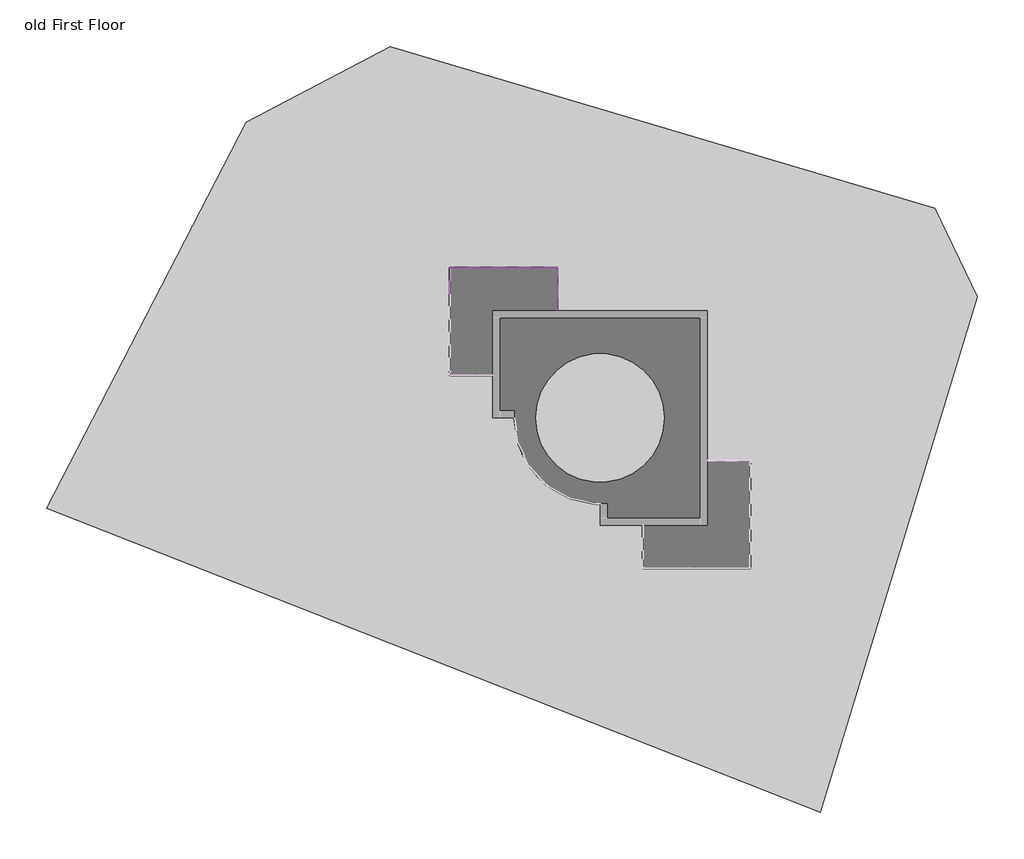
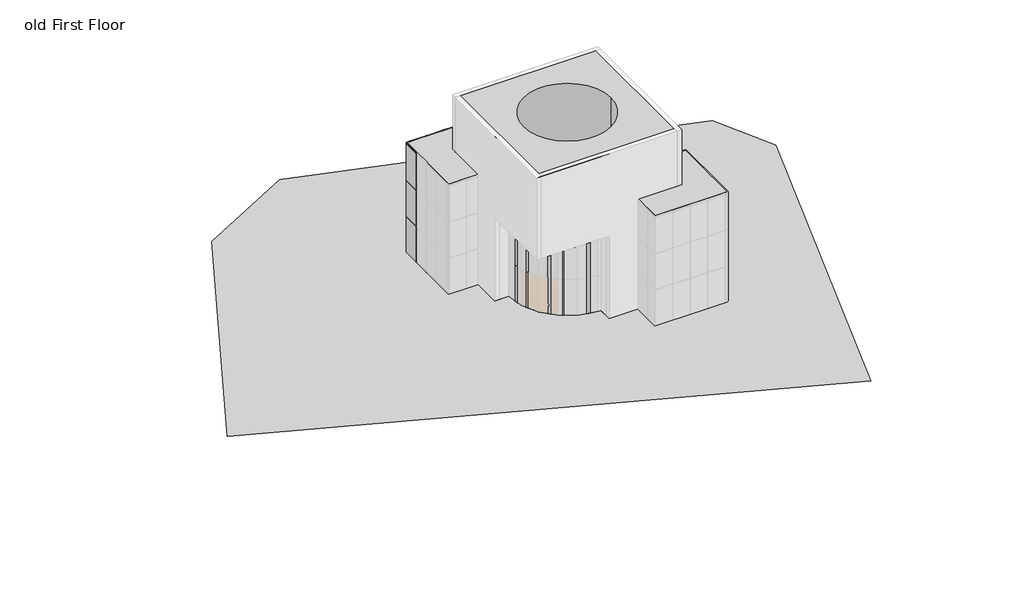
# One storey, part 4 of 4: 72 members, 32 plates, 3 proxies, 2 slabs.
"""IFC4 building model written with IfcOpenShell, lengths in millimetres."""

from ifc_helpers import new_model, si_unit, point, frame, frame_2d, origin, origin_with_axes, place, context, project, spatial, polyline, circle_curve, trimmed, segment, composite_curve, outline, extrude, triangles, transform, mapped, element, save
from ifc_brep_helpers import plane_surface, cylinder_surface, revolved_surface, advanced_brep
from components import member_159572b0, member_653015da, member_2a641000, member_559eaf3f, member_582f46e3, member_ecc72e92, member_f3435ee7, member_a0b1ebc8, member_e916581d, member_8d5cdd9e, member_e2275742, member_baf210a9, system_panel_glazed_055f5726, system_panel_glazed_f85f85f2, system_panel_glazed_14487ba2, system_panel_glazed_56128400, system_panel_glazed_75032e0c, system_panel_glazed_306a2926

model = new_model("IFC4")

# Units and contexts
model_context = context("Model", 3, world=origin())
ifc_project = project(units=[si_unit("LENGTHUNIT", "METRE", prefix="MILLI")], contexts=[model_context])

# Site, building, storey
site = spatial("IfcSite", under=ifc_project)
building = spatial("IfcBuilding", under=site)
storey = spatial("IfcBuildingStorey", under=building, Name="old First Floor", Elevation=0.0)

# Proxies
placement = place(None, origin())
element("IfcBuildingElementProxy", 1, Name="Building Element Proxy", at=placement, inside=storey, context=model_context, shape_type="Tessellation", body=[
    triangles([(-25480.586554, 20710.9637329, 0.0), (-15230.408725, 26088.1052856, 0.0), (23501.8189636, 14577.6613586, 0.0), (26526.4622498, 8276.3221481, 0.0), (15352.0885071, -28355.4599121, 0.0), (-39679.6012573, -6762.8726669, 0.0)], [[1, 5, 2], [5, 1, 6], [4, 3, 2], [4, 2, 5]], closed=False),
])
element("IfcBuildingElementProxy", 2, Name="Central Hall1 : Central Hall", ObjectType="Central Hall1 : Central Hall", at=placement, inside=storey, context=model_context, shape_type="AdvancedBrep", body=[
    advanced_brep(
    [(7308.8955952, 7299.8851347, 0.0), (-7931.1044048, 7299.8851347, 0.0), (-7931.1044048, 7299.8851347, 18288.0), (7308.8955952, 7299.8851347, 18288.0), (-7931.1044048, -320.1148653, 0.0), (-7931.1044048, -320.1148653, 9144.0), (-7931.1044048, -7940.1148653, 9144.0), (-7931.1044048, -7940.1148653, 18288.0), (7308.8955952, -7940.1148653, 0.0), (7308.8955952, -7940.1148653, 18288.0), (-311.1044048, -7940.1148653, 9144.0), (-311.1044048, -7940.1148653, 0.0), (4260.8955952, -320.1148653, 18288.0), (-4883.1044048, -320.1148653, 18288.0), (-311.1044048, -6416.1148653, 0.0), (-6407.1044048, -320.1148653, 0.0), (-4883.1044048, -320.1148653, 0.0), (4260.8955952, -320.1148653, 0.0), (-311.1044048, -6416.1148653, 9144.0), (-6407.1044048, -320.1148653, 9144.0)],
    [
        (0, 1),
        (1, 2),
        (2, 3),
        (3, 0),
        (1, 4),
        (4, 5),
        (5, 6),
        (6, 7),
        (7, 2),
        (8, 9),
        (9, 7),
        (6, 10),
        (10, 11),
        (11, 8),
        (3, 9),
        (8, 0),
        (12, 13, circle_curve(frame((-311.1044048, -320.1148653, 18288.0), z_axis=(0.0, 0.0, -1.0), x_axis=(0.0, -1.0, 0.0)), 4572.0)),
        (13, 12, circle_curve(frame((-311.1044048, -320.1148653, 18288.0), z_axis=(0.0, 0.0, -1.0), x_axis=(0.0, 1.0, 0.0)), 4572.0)),
        (11, 14),
        (14, 15, circle_curve(frame((-311.1044048, -320.1148653, 0.0), z_axis=(0.0, 0.0, -1.0), x_axis=(-1.0, 0.0, 0.0)), 6096.0)),
        (15, 4),
        (16, 17, circle_curve(frame((-311.1044048, -320.1148653, 0.0), z_axis=(0.0, 0.0, 1.0), x_axis=(0.0, -1.0, 0.0)), 4572.0)),
        (17, 16, circle_curve(frame((-311.1044048, -320.1148653, 0.0), z_axis=(0.0, 0.0, 1.0), x_axis=(0.0, 1.0, 0.0)), 4572.0)),
        (16, 13),
        (12, 17),
        (14, 18),
        (18, 19, circle_curve(frame((-311.1044048, -320.1148653, 9144.0), z_axis=(0.0, 0.0, -1.0), x_axis=(-1.0, 0.0, 0.0)), 6096.0)),
        (19, 15),
        (19, 5),
        (10, 18),
    ],
    [
        plane_surface(frame((-311.1044048, 7299.8851347, 0.0), z_axis=(0.0, 1.0, 0.0), x_axis=(-1.0, 0.0, 0.0))),
        plane_surface(frame((-7931.1044048, -320.1148653, 0.0), z_axis=(-1.0, 0.0, 0.0), x_axis=(0.0, -1.0, 0.0))),
        plane_surface(frame((-311.1044048, -7940.1148653, 0.0), z_axis=(0.0, -1.0, 0.0), x_axis=(1.0, 0.0, 0.0))),
        plane_surface(frame((7308.8955952, -320.1148653, 0.0), z_axis=(1.0, 0.0, 0.0), x_axis=(0.0, 1.0, 0.0))),
        plane_surface(frame((-311.1044048, -320.1148653, 18288.0), z_axis=(0.0, 0.0, 1.0), x_axis=(1.0, 0.0, 0.0))),
        plane_surface(frame((-311.1044048, -320.1148653, 0.0), z_axis=(0.0, 0.0, -1.0), x_axis=(0.0, -1.0, 0.0))),
        revolved_surface(polyline([(-311.1044048, -4892.1148653, 18288.0), (-311.1044048, -4892.1148653, 0.0)]), (-311.1044048, -320.1148653, 0.0), (0.0, 0.0, 1.0)),
        revolved_surface(polyline([(-311.1044048, 4251.8851347, 18288.0), (-311.1044048, 4251.8851347, 0.0)]), (-311.1044048, -320.1148653, 0.0), (0.0, 0.0, 1.0)),
        cylinder_surface(frame((-311.1044048, -320.1148653, 0.0), z_axis=(0.0, 0.0, 1.0), x_axis=(-1.0, 0.0, 0.0)), 6096.0),
        plane_surface(frame((-7169.1044048, -320.1148653, 0.0), z_axis=(0.0, -1.0, 0.0), x_axis=(-1.0, 0.0, 0.0))),
        plane_surface(frame((-311.1044048, -7178.1148653, 0.0), z_axis=(-1.0, 0.0, 0.0), x_axis=(0.0, 1.0, 0.0))),
        plane_surface(frame((-4578.3044048, -4587.3148653, 9144.0), z_axis=(0.0, 0.0, -1.0), x_axis=(-1.0, 0.0, 0.0))),
    ],
    [
        (0, [[1, 2, 3, 4]]),
        (1, [[-2, 5, 6, 7, 8, 9]]),
        (2, [[10, 11, -8, 12, 13, 14]]),
        (3, [[-4, 15, -10, 16]]),
        (4, [[-3, -9, -11, -15], [17, 18]]),
        (5, [[-1, -16, -14, 19, 20, 21, -5], [22, 23]]),
        (6, [[24, -17, 25, -22]]),
        (7, [[-24, -23, -25, -18]]),
        (8, [[26, 27, 28, -20]]),
        (9, [[-28, 29, -6, -21]]),
        (10, [[-26, -19, -13, 30]]),
        (11, [[-27, -30, -12, -7, -29]]),
    ],
),
])
element("IfcBuildingElementProxy", 3, Name="Wings1 : Wings", ObjectType="Wings1 : Wings", at=placement, inside=storey, context=model_context, shape_type="SweptSolid", body=[
    extrude(outline(polyline([(-3359.1044048, 10347.8851347), (-3359.1044048, 7299.8851347), (-7931.1044048, 7299.8851347), (-7931.1044048, 2727.8851347), (-10979.1044048, 2727.8851347), (-10979.1044048, 10347.8851347), (-3359.1044048, 10347.8851347)])), origin_with_axes(), (0.0, 0.0, 1.0), 12192.0),
    extrude(outline(polyline([(10356.8955952, -3368.1148653), (10356.8955952, -10988.1148653), (2736.8955952, -10988.1148653), (2736.8955952, -7940.1148653), (7308.8955952, -7940.1148653), (7308.8955952, -3368.1148653), (10356.8955952, -3368.1148653)])), origin_with_axes(), (0.0, 0.0, 1.0), 12192.0),
])

# Members
member_shape = member_159572b0(model_context)
element("IfcMember", 4, ObjectType="Rectangular Mullion : 1\" Square", at=placement, inside=storey, context=model_context, shape_type="MappedRepresentation", body=[
    mapped(member_shape, transform((-10953.7044048, 10347.8851347, 12192.0), x_axis=(0.0, 0.0, 1.0), y_axis=(0.0, 1.0, 0.0), z_axis=(-1.0, 0.0, 0.0))),
])
member_2_shape = member_653015da(model_context)
element("IfcMember", 5, ObjectType="Rectangular Mullion : 1\" Square", at=placement, inside=storey, context=model_context, shape_type="MappedRepresentation", body=[
    mapped(member_2_shape, transform((-10979.1044048, 10322.4851347, 0.0), x_axis=(0.0, 0.0, -1.0), y_axis=(-1.0, 0.0, 0.0), z_axis=(0.0, 1.0, 0.0))),
])
element("IfcMember", 6, ObjectType="Rectangular Mullion : 1\" Square", at=placement, inside=storey, context=model_context, shape_type="MappedRepresentation", body=[
    mapped(member_2_shape, transform((-3384.5044048, 10347.8851347, 0.0), x_axis=(0.0, 0.0, -1.0), y_axis=(0.0, 1.0, 0.0), z_axis=(1.0, 0.0, 0.0))),
])
member_3_shape = member_2a641000(model_context)
element("IfcMember", 7, ObjectType="Rectangular Mullion : 1\" Square", at=placement, inside=storey, context=model_context, shape_type="MappedRepresentation", body=[
    mapped(member_3_shape, transform((-5189.1044048, 10347.8851347, 0.0), x_axis=(-1.0, 0.0, 0.0), y_axis=(0.0, 1.0, 0.0), z_axis=(0.0, 0.0, -1.0))),
])
element("IfcMember", 8, ObjectType="Rectangular Mullion : 1\" Square", at=placement, inside=storey, context=model_context, shape_type="MappedRepresentation", body=[
    mapped(member_3_shape, transform((-7019.1044048, 10347.8851347, 0.0), x_axis=(-1.0, 0.0, 0.0), y_axis=(0.0, 1.0, 0.0), z_axis=(0.0, 0.0, -1.0))),
])
element("IfcMember", 9, ObjectType="Rectangular Mullion : 1\" Square", at=placement, inside=storey, context=model_context, shape_type="MappedRepresentation", body=[
    mapped(member_3_shape, transform((-8849.1044048, 10347.8851347, 0.0), x_axis=(-1.0, 0.0, 0.0), y_axis=(0.0, 1.0, 0.0), z_axis=(0.0, 0.0, -1.0))),
])
element("IfcMember", 10, ObjectType="Rectangular Mullion : 1\" Square", at=placement, inside=storey, context=model_context, shape_type="MappedRepresentation", body=[
    mapped(member_3_shape, transform((-10679.1044048, 10347.8851347, 0.0), x_axis=(-1.0, 0.0, 0.0), y_axis=(0.0, 1.0, 0.0), z_axis=(0.0, 0.0, -1.0))),
])
element("IfcMember", 11, ObjectType="Rectangular Mullion : 1\" Square", at=placement, inside=storey, context=model_context, shape_type="MappedRepresentation", body=[
    mapped(member_3_shape, transform((-3359.1044048, 9129.8851347, 0.0), x_axis=(0.0, 1.0, 0.0), y_axis=(1.0, 0.0, 0.0), z_axis=(0.0, 0.0, -1.0))),
])
member_4_shape = member_559eaf3f(model_context)
element("IfcMember", 12, ObjectType="Rectangular Mullion : 1\" Square", at=placement, inside=storey, context=model_context, shape_type="MappedRepresentation", body=[
    mapped(member_4_shape, transform((-5176.4044048, 10347.8851347, 4000.0), x_axis=(0.0, 0.0, 1.0), y_axis=(0.0, 1.0, 0.0), z_axis=(-1.0, 0.0, 0.0))),
])
element("IfcMember", 13, ObjectType="Rectangular Mullion : 1\" Square", at=placement, inside=storey, context=model_context, shape_type="MappedRepresentation", body=[
    mapped(member_4_shape, transform((-5176.4044048, 10347.8851347, 8000.0), x_axis=(0.0, 0.0, 1.0), y_axis=(0.0, 1.0, 0.0), z_axis=(-1.0, 0.0, 0.0))),
])
element("IfcMember", 14, ObjectType="Rectangular Mullion : 1\" Square", at=placement, inside=storey, context=model_context, shape_type="MappedRepresentation", body=[
    mapped(member_4_shape, transform((-5176.4044048, 10347.8851347, 12000.0), x_axis=(0.0, 0.0, 1.0), y_axis=(0.0, 1.0, 0.0), z_axis=(-1.0, 0.0, 0.0))),
])
element("IfcMember", 15, ObjectType="Rectangular Mullion : 1\" Square", at=placement, inside=storey, context=model_context, shape_type="MappedRepresentation", body=[
    mapped(member_4_shape, transform((-3359.1044048, 9117.1851347, 4000.0), x_axis=(0.0, 0.0, 1.0), y_axis=(1.0, 0.0, 0.0), z_axis=(0.0, 1.0, 0.0))),
])
element("IfcMember", 16, ObjectType="Rectangular Mullion : 1\" Square", at=placement, inside=storey, context=model_context, shape_type="MappedRepresentation", body=[
    mapped(member_4_shape, transform((-3359.1044048, 9117.1851347, 8000.0), x_axis=(0.0, 0.0, 1.0), y_axis=(1.0, 0.0, 0.0), z_axis=(0.0, 1.0, 0.0))),
])
element("IfcMember", 17, ObjectType="Rectangular Mullion : 1\" Square", at=placement, inside=storey, context=model_context, shape_type="MappedRepresentation", body=[
    mapped(member_4_shape, transform((-3359.1044048, 9117.1851347, 12000.0), x_axis=(0.0, 0.0, 1.0), y_axis=(1.0, 0.0, 0.0), z_axis=(0.0, 1.0, 0.0))),
])
member_5_shape = member_582f46e3(model_context)
element("IfcMember", 18, ObjectType="Rectangular Mullion : 1\" Square", at=placement, inside=storey, context=model_context, shape_type="MappedRepresentation", body=[
    mapped(member_5_shape, transform((-7006.4044048, 10347.8851347, 4000.0), x_axis=(0.0, 0.0, 1.0), y_axis=(0.0, 1.0, 0.0), z_axis=(-1.0, 0.0, 0.0))),
])
element("IfcMember", 19, ObjectType="Rectangular Mullion : 1\" Square", at=placement, inside=storey, context=model_context, shape_type="MappedRepresentation", body=[
    mapped(member_5_shape, transform((-8836.4044048, 10347.8851347, 4000.0), x_axis=(0.0, 0.0, 1.0), y_axis=(0.0, 1.0, 0.0), z_axis=(-1.0, 0.0, 0.0))),
])
element("IfcMember", 20, ObjectType="Rectangular Mullion : 1\" Square", at=placement, inside=storey, context=model_context, shape_type="MappedRepresentation", body=[
    mapped(member_5_shape, transform((-10666.4044048, 10347.8851347, 4000.0), x_axis=(0.0, 0.0, 1.0), y_axis=(0.0, 1.0, 0.0), z_axis=(-1.0, 0.0, 0.0))),
])
element("IfcMember", 21, ObjectType="Rectangular Mullion : 1\" Square", at=placement, inside=storey, context=model_context, shape_type="MappedRepresentation", body=[
    mapped(member_5_shape, transform((-7006.4044048, 10347.8851347, 8000.0), x_axis=(0.0, 0.0, 1.0), y_axis=(0.0, 1.0, 0.0), z_axis=(-1.0, 0.0, 0.0))),
])
element("IfcMember", 22, ObjectType="Rectangular Mullion : 1\" Square", at=placement, inside=storey, context=model_context, shape_type="MappedRepresentation", body=[
    mapped(member_5_shape, transform((-8836.4044048, 10347.8851347, 8000.0), x_axis=(0.0, 0.0, 1.0), y_axis=(0.0, 1.0, 0.0), z_axis=(-1.0, 0.0, 0.0))),
])
element("IfcMember", 23, ObjectType="Rectangular Mullion : 1\" Square", at=placement, inside=storey, context=model_context, shape_type="MappedRepresentation", body=[
    mapped(member_5_shape, transform((-10666.4044048, 10347.8851347, 8000.0), x_axis=(0.0, 0.0, 1.0), y_axis=(0.0, 1.0, 0.0), z_axis=(-1.0, 0.0, 0.0))),
])
element("IfcMember", 24, ObjectType="Rectangular Mullion : 1\" Square", at=placement, inside=storey, context=model_context, shape_type="MappedRepresentation", body=[
    mapped(member_5_shape, transform((-7006.4044048, 10347.8851347, 12000.0), x_axis=(0.0, 0.0, 1.0), y_axis=(0.0, 1.0, 0.0), z_axis=(-1.0, 0.0, 0.0))),
])
element("IfcMember", 25, ObjectType="Rectangular Mullion : 1\" Square", at=placement, inside=storey, context=model_context, shape_type="MappedRepresentation", body=[
    mapped(member_5_shape, transform((-8836.4044048, 10347.8851347, 12000.0), x_axis=(0.0, 0.0, 1.0), y_axis=(0.0, 1.0, 0.0), z_axis=(-1.0, 0.0, 0.0))),
])
element("IfcMember", 26, ObjectType="Rectangular Mullion : 1\" Square", at=placement, inside=storey, context=model_context, shape_type="MappedRepresentation", body=[
    mapped(member_5_shape, transform((-10666.4044048, 10347.8851347, 12000.0), x_axis=(0.0, 0.0, 1.0), y_axis=(0.0, 1.0, 0.0), z_axis=(-1.0, 0.0, 0.0))),
])
member_6_shape = member_ecc72e92(model_context)
element("IfcMember", 27, ObjectType="Rectangular Mullion : 1\" Square", at=placement, inside=storey, context=model_context, shape_type="MappedRepresentation", body=[
    mapped(member_6_shape, transform((-10953.7044048, 10347.8851347, 4000.0), x_axis=(0.0, 0.0, 1.0), y_axis=(0.0, 1.0, 0.0), z_axis=(-1.0, 0.0, 0.0))),
])
element("IfcMember", 28, ObjectType="Rectangular Mullion : 1\" Square", at=placement, inside=storey, context=model_context, shape_type="MappedRepresentation", body=[
    mapped(member_6_shape, transform((-10953.7044048, 10347.8851347, 8000.0), x_axis=(0.0, 0.0, 1.0), y_axis=(0.0, 1.0, 0.0), z_axis=(-1.0, 0.0, 0.0))),
])
element("IfcMember", 29, ObjectType="Rectangular Mullion : 1\" Square", at=placement, inside=storey, context=model_context, shape_type="MappedRepresentation", body=[
    mapped(member_6_shape, transform((-10953.7044048, 10347.8851347, 12000.0), x_axis=(0.0, 0.0, 1.0), y_axis=(0.0, 1.0, 0.0), z_axis=(-1.0, 0.0, 0.0))),
])
member_7_shape = member_f3435ee7(model_context)
element("IfcMember", 30, ObjectType="Rectangular Mullion : 1\" Square", at=placement, inside=storey, context=model_context, shape_type="MappedRepresentation", body=[
    mapped(member_7_shape, transform((-5201.8044048, 10347.8851347, 0.0), x_axis=(0.0, 0.0, -1.0), y_axis=(0.0, 1.0, 0.0), z_axis=(1.0, 0.0, 0.0))),
])
element("IfcMember", 31, ObjectType="Rectangular Mullion : 1\" Square", at=placement, inside=storey, context=model_context, shape_type="MappedRepresentation", body=[
    mapped(member_7_shape, transform((-7031.8044048, 10347.8851347, 0.0), x_axis=(0.0, 0.0, -1.0), y_axis=(0.0, 1.0, 0.0), z_axis=(1.0, 0.0, 0.0))),
])
element("IfcMember", 32, ObjectType="Rectangular Mullion : 1\" Square", at=placement, inside=storey, context=model_context, shape_type="MappedRepresentation", body=[
    mapped(member_7_shape, transform((-8861.8044048, 10347.8851347, 0.0), x_axis=(0.0, 0.0, -1.0), y_axis=(0.0, 1.0, 0.0), z_axis=(1.0, 0.0, 0.0))),
])
element("IfcMember", 33, ObjectType="Rectangular Mullion : 1\" Square", at=placement, inside=storey, context=model_context, shape_type="MappedRepresentation", body=[
    mapped(member_shape, transform((-10691.8044048, 10347.8851347, 0.0), x_axis=(0.0, 0.0, -1.0), y_axis=(0.0, 1.0, 0.0), z_axis=(1.0, 0.0, 0.0))),
])
element("IfcMember", 34, ObjectType="Rectangular Mullion : 1\" Square", at=placement, inside=storey, context=model_context, shape_type="MappedRepresentation", body=[
    mapped(member_2_shape, transform((-5176.4044048, 10347.8851347, 12192.0), x_axis=(0.0, 0.0, 1.0), y_axis=(0.0, 1.0, 0.0), z_axis=(-1.0, 0.0, 0.0))),
])
element("IfcMember", 35, ObjectType="Rectangular Mullion : 1\" Square", at=placement, inside=storey, context=model_context, shape_type="MappedRepresentation", body=[
    mapped(member_2_shape, transform((-3359.1044048, 9117.1851347, 12192.0), x_axis=(0.0, 0.0, 1.0), y_axis=(1.0, 0.0, 0.0), z_axis=(0.0, 1.0, 0.0))),
])
element("IfcMember", 36, ObjectType="Rectangular Mullion : 1\" Square", at=placement, inside=storey, context=model_context, shape_type="MappedRepresentation", body=[
    mapped(member_7_shape, transform((-7006.4044048, 10347.8851347, 12192.0), x_axis=(0.0, 0.0, 1.0), y_axis=(0.0, 1.0, 0.0), z_axis=(-1.0, 0.0, 0.0))),
])
element("IfcMember", 37, ObjectType="Rectangular Mullion : 1\" Square", at=placement, inside=storey, context=model_context, shape_type="MappedRepresentation", body=[
    mapped(member_7_shape, transform((-8836.4044048, 10347.8851347, 12192.0), x_axis=(0.0, 0.0, 1.0), y_axis=(0.0, 1.0, 0.0), z_axis=(-1.0, 0.0, 0.0))),
])
element("IfcMember", 38, ObjectType="Rectangular Mullion : 1\" Square", at=placement, inside=storey, context=model_context, shape_type="MappedRepresentation", body=[
    mapped(member_7_shape, transform((-10666.4044048, 10347.8851347, 12192.0), x_axis=(0.0, 0.0, 1.0), y_axis=(0.0, 1.0, 0.0), z_axis=(-1.0, 0.0, 0.0))),
])
element("IfcMember", 39, ObjectType="Rectangular Mullion : 1\" Square", at=placement, inside=storey, context=model_context, shape_type="MappedRepresentation", body=[
    mapped(member_3_shape, transform((-5189.1044048, 10347.8851347, 4000.0), x_axis=(-1.0, 0.0, 0.0), y_axis=(0.0, 1.0, 0.0), z_axis=(0.0, 0.0, -1.0))),
])
element("IfcMember", 40, ObjectType="Rectangular Mullion : 1\" Square", at=placement, inside=storey, context=model_context, shape_type="MappedRepresentation", body=[
    mapped(member_3_shape, transform((-5189.1044048, 10347.8851347, 8000.0), x_axis=(-1.0, 0.0, 0.0), y_axis=(0.0, 1.0, 0.0), z_axis=(0.0, 0.0, -1.0))),
])
element("IfcMember", 41, ObjectType="Rectangular Mullion : 1\" Square", at=placement, inside=storey, context=model_context, shape_type="MappedRepresentation", body=[
    mapped(member_3_shape, transform((-7019.1044048, 10347.8851347, 4000.0), x_axis=(-1.0, 0.0, 0.0), y_axis=(0.0, 1.0, 0.0), z_axis=(0.0, 0.0, -1.0))),
])
element("IfcMember", 42, ObjectType="Rectangular Mullion : 1\" Square", at=placement, inside=storey, context=model_context, shape_type="MappedRepresentation", body=[
    mapped(member_3_shape, transform((-7019.1044048, 10347.8851347, 8000.0), x_axis=(-1.0, 0.0, 0.0), y_axis=(0.0, 1.0, 0.0), z_axis=(0.0, 0.0, -1.0))),
])
element("IfcMember", 43, ObjectType="Rectangular Mullion : 1\" Square", at=placement, inside=storey, context=model_context, shape_type="MappedRepresentation", body=[
    mapped(member_3_shape, transform((-8849.1044048, 10347.8851347, 4000.0), x_axis=(-1.0, 0.0, 0.0), y_axis=(0.0, 1.0, 0.0), z_axis=(0.0, 0.0, -1.0))),
])
element("IfcMember", 44, ObjectType="Rectangular Mullion : 1\" Square", at=placement, inside=storey, context=model_context, shape_type="MappedRepresentation", body=[
    mapped(member_3_shape, transform((-8849.1044048, 10347.8851347, 8000.0), x_axis=(-1.0, 0.0, 0.0), y_axis=(0.0, 1.0, 0.0), z_axis=(0.0, 0.0, -1.0))),
])
element("IfcMember", 45, ObjectType="Rectangular Mullion : 1\" Square", at=placement, inside=storey, context=model_context, shape_type="MappedRepresentation", body=[
    mapped(member_3_shape, transform((-10679.1044048, 10347.8851347, 4000.0), x_axis=(-1.0, 0.0, 0.0), y_axis=(0.0, 1.0, 0.0), z_axis=(0.0, 0.0, -1.0))),
])
element("IfcMember", 46, ObjectType="Rectangular Mullion : 1\" Square", at=placement, inside=storey, context=model_context, shape_type="MappedRepresentation", body=[
    mapped(member_3_shape, transform((-10679.1044048, 10347.8851347, 8000.0), x_axis=(-1.0, 0.0, 0.0), y_axis=(0.0, 1.0, 0.0), z_axis=(0.0, 0.0, -1.0))),
])
element("IfcMember", 47, ObjectType="Rectangular Mullion : 1\" Square", at=placement, inside=storey, context=model_context, shape_type="MappedRepresentation", body=[
    mapped(member_3_shape, transform((-3359.1044048, 9129.8851347, 4000.0), x_axis=(0.0, 1.0, 0.0), y_axis=(1.0, 0.0, 0.0), z_axis=(0.0, 0.0, -1.0))),
])
element("IfcMember", 48, ObjectType="Rectangular Mullion : 1\" Square", at=placement, inside=storey, context=model_context, shape_type="MappedRepresentation", body=[
    mapped(member_3_shape, transform((-3359.1044048, 9129.8851347, 8000.0), x_axis=(0.0, 1.0, 0.0), y_axis=(1.0, 0.0, 0.0), z_axis=(0.0, 0.0, -1.0))),
])
member_8_shape = member_a0b1ebc8(model_context)
element("IfcMember", 49, ObjectType="Rectangular Mullion : 1\" Square", at=placement, inside=storey, context=model_context, shape_type="MappedRepresentation", body=[
    mapped(member_8_shape, transform((-10979.1044048, 8517.8851347, 12000.0), x_axis=(0.0, -1.0, 0.0), y_axis=(-1.0, 0.0, 0.0), z_axis=(0.0, 0.0, -1.0))),
])
element("IfcMember", 50, ObjectType="Rectangular Mullion : 1\" Square", at=placement, inside=storey, context=model_context, shape_type="MappedRepresentation", body=[
    mapped(member_8_shape, transform((-5189.1044048, 10347.8851347, 12000.0), x_axis=(-1.0, 0.0, 0.0), y_axis=(0.0, 1.0, 0.0), z_axis=(0.0, 0.0, -1.0))),
])
element("IfcMember", 51, ObjectType="Rectangular Mullion : 1\" Square", at=placement, inside=storey, context=model_context, shape_type="MappedRepresentation", body=[
    mapped(member_8_shape, transform((-7019.1044048, 10347.8851347, 12000.0), x_axis=(-1.0, 0.0, 0.0), y_axis=(0.0, 1.0, 0.0), z_axis=(0.0, 0.0, -1.0))),
])
element("IfcMember", 52, ObjectType="Rectangular Mullion : 1\" Square", at=placement, inside=storey, context=model_context, shape_type="MappedRepresentation", body=[
    mapped(member_8_shape, transform((-8849.1044048, 10347.8851347, 12000.0), x_axis=(-1.0, 0.0, 0.0), y_axis=(0.0, 1.0, 0.0), z_axis=(0.0, 0.0, -1.0))),
])
element("IfcMember", 53, ObjectType="Rectangular Mullion : 1\" Square", at=placement, inside=storey, context=model_context, shape_type="MappedRepresentation", body=[
    mapped(member_8_shape, transform((-10679.1044048, 10347.8851347, 12000.0), x_axis=(-1.0, 0.0, 0.0), y_axis=(0.0, 1.0, 0.0), z_axis=(0.0, 0.0, -1.0))),
])
element("IfcMember", 54, ObjectType="Rectangular Mullion : 1\" Square", at=placement, inside=storey, context=model_context, shape_type="MappedRepresentation", body=[
    mapped(member_8_shape, transform((-3359.1044048, 9129.8851347, 12000.0), x_axis=(0.0, 1.0, 0.0), y_axis=(1.0, 0.0, 0.0), z_axis=(0.0, 0.0, -1.0))),
])
member_9_shape = member_e916581d(model_context)
element("IfcMember", 55, ObjectType="Rectangular Mullion : 1\" Square", at=placement, inside=storey, context=model_context, shape_type="MappedRepresentation", body=[
    mapped(member_9_shape, transform((-3359.1044048, 10322.4851347, 12192.0), x_axis=(0.0, 0.0, 1.0), y_axis=(1.0, 0.0, 0.0), z_axis=(0.0, 1.0, 0.0))),
])
member_10_shape = member_8d5cdd9e(model_context)
element("IfcMember", 56, ObjectType="Rectangular Mullion : 1\" Square", at=placement, inside=storey, context=model_context, shape_type="MappedRepresentation", body=[
    mapped(member_10_shape, transform((-3359.1044048, 10322.4851347, 4000.0), x_axis=(0.0, 0.0, 1.0), y_axis=(1.0, 0.0, 0.0), z_axis=(0.0, 1.0, 0.0))),
])
element("IfcMember", 57, ObjectType="Rectangular Mullion : 1\" Square", at=placement, inside=storey, context=model_context, shape_type="MappedRepresentation", body=[
    mapped(member_10_shape, transform((-3359.1044048, 10322.4851347, 8000.0), x_axis=(0.0, 0.0, 1.0), y_axis=(1.0, 0.0, 0.0), z_axis=(0.0, 1.0, 0.0))),
])
element("IfcMember", 58, ObjectType="Rectangular Mullion : 1\" Square", at=placement, inside=storey, context=model_context, shape_type="MappedRepresentation", body=[
    mapped(member_10_shape, transform((-3359.1044048, 10322.4851347, 12000.0), x_axis=(0.0, 0.0, 1.0), y_axis=(1.0, 0.0, 0.0), z_axis=(0.0, 1.0, 0.0))),
])
element("IfcMember", 59, ObjectType="Rectangular Mullion : 1\" Square", at=placement, inside=storey, context=model_context, shape_type="MappedRepresentation", body=[
    mapped(member_9_shape, transform((-3359.1044048, 9142.5851347, 0.0), x_axis=(0.0, 0.0, -1.0), y_axis=(1.0, 0.0, 0.0), z_axis=(0.0, -1.0, 0.0))),
])
member_11_shape = member_e2275742(model_context)
element("IfcMember", 60, ObjectType="Rectangular Mullion : 1\" Square", at=placement, inside=storey, context=model_context, shape_type="MappedRepresentation", body=[
    mapped(member_11_shape, transform((-10979.1044048, 10347.8851347, 0.0), x_axis=(-1.0, 0.0, 0.0), y_axis=(0.0, 1.0, 0.0), z_axis=(0.0, 0.0, -1.0))),
])
element("IfcMember", 61, ObjectType="Rectangular Mullion : 1\" Square", at=placement, inside=storey, context=model_context, shape_type="MappedRepresentation", body=[
    mapped(member_11_shape, transform((-3359.1044048, 10347.8851347, 0.0), x_axis=(0.0, 1.0, 0.0), y_axis=(1.0, 0.0, 0.0), z_axis=(0.0, 0.0, -1.0))),
])
element("IfcMember", 62, ObjectType="Rectangular Mullion : 1\" Square", at=placement, inside=storey, context=model_context, shape_type="MappedRepresentation", body=[
    mapped(member_11_shape, transform((-10979.1044048, 10347.8851347, 4000.0), x_axis=(0.0, 1.0, 0.0), y_axis=(-1.0, 0.0, 0.0), z_axis=(0.0, 0.0, 1.0))),
])
element("IfcMember", 63, ObjectType="Rectangular Mullion : 1\" Square", at=placement, inside=storey, context=model_context, shape_type="MappedRepresentation", body=[
    mapped(member_11_shape, transform((-3359.1044048, 10347.8851347, 4000.0), x_axis=(1.0, 0.0, 0.0), y_axis=(0.0, 1.0, 0.0), z_axis=(0.0, 0.0, 1.0))),
])
element("IfcMember", 64, ObjectType="Rectangular Mullion : 1\" Square", at=placement, inside=storey, context=model_context, shape_type="MappedRepresentation", body=[
    mapped(member_11_shape, transform((-10979.1044048, 10347.8851347, 8000.0), x_axis=(0.0, 1.0, 0.0), y_axis=(-1.0, 0.0, 0.0), z_axis=(0.0, 0.0, 1.0))),
])
element("IfcMember", 65, ObjectType="Rectangular Mullion : 1\" Square", at=placement, inside=storey, context=model_context, shape_type="MappedRepresentation", body=[
    mapped(member_11_shape, transform((-10979.1044048, 10347.8851347, 12000.0), x_axis=(0.0, 1.0, 0.0), y_axis=(-1.0, 0.0, 0.0), z_axis=(0.0, 0.0, 1.0))),
])
element("IfcMember", 66, ObjectType="Rectangular Mullion : 1\" Square", at=placement, inside=storey, context=model_context, shape_type="MappedRepresentation", body=[
    mapped(member_11_shape, transform((-3359.1044048, 10347.8851347, 8000.0), x_axis=(1.0, 0.0, 0.0), y_axis=(0.0, 1.0, 0.0), z_axis=(0.0, 0.0, 1.0))),
])
element("IfcMember", 67, ObjectType="Rectangular Mullion : 1\" Square", at=placement, inside=storey, context=model_context, shape_type="MappedRepresentation", body=[
    mapped(member_11_shape, transform((-3359.1044048, 10347.8851347, 12000.0), x_axis=(1.0, 0.0, 0.0), y_axis=(0.0, 1.0, 0.0), z_axis=(0.0, 0.0, 1.0))),
])
element("IfcMember", 68, ObjectType="Rectangular Mullion : 1\" Square", at=placement, inside=storey, context=model_context, shape_type="MappedRepresentation", body=[
    mapped(member_11_shape, transform((-10979.1044048, 10347.8851347, 4000.0), x_axis=(-1.0, 0.0, 0.0), y_axis=(0.0, 1.0, 0.0), z_axis=(0.0, 0.0, -1.0))),
])
element("IfcMember", 69, ObjectType="Rectangular Mullion : 1\" Square", at=placement, inside=storey, context=model_context, shape_type="MappedRepresentation", body=[
    mapped(member_11_shape, transform((-10979.1044048, 10347.8851347, 8000.0), x_axis=(-1.0, 0.0, 0.0), y_axis=(0.0, 1.0, 0.0), z_axis=(0.0, 0.0, -1.0))),
])
element("IfcMember", 70, ObjectType="Rectangular Mullion : 1\" Square", at=placement, inside=storey, context=model_context, shape_type="MappedRepresentation", body=[
    mapped(member_11_shape, transform((-3359.1044048, 10347.8851347, 4000.0), x_axis=(0.0, 1.0, 0.0), y_axis=(1.0, 0.0, 0.0), z_axis=(0.0, 0.0, -1.0))),
])
element("IfcMember", 71, ObjectType="Rectangular Mullion : 1\" Square", at=placement, inside=storey, context=model_context, shape_type="MappedRepresentation", body=[
    mapped(member_11_shape, transform((-3359.1044048, 10347.8851347, 8000.0), x_axis=(0.0, 1.0, 0.0), y_axis=(1.0, 0.0, 0.0), z_axis=(0.0, 0.0, -1.0))),
])
member_12_shape = member_baf210a9(model_context)
element("IfcMember", 72, ObjectType="Rectangular Mullion : 1\" Square", at=placement, inside=storey, context=model_context, shape_type="MappedRepresentation", body=[
    mapped(member_12_shape, transform((-10979.1044048, 10347.8851347, 12192.0), x_axis=(0.0, 1.0, 0.0), y_axis=(-1.0, 0.0, 0.0), z_axis=(0.0, 0.0, 1.0))),
])
element("IfcMember", 73, ObjectType="Rectangular Mullion : 1\" Square", at=placement, inside=storey, context=model_context, shape_type="MappedRepresentation", body=[
    mapped(member_12_shape, transform((-3359.1044048, 10347.8851347, 12192.0), x_axis=(1.0, 0.0, 0.0), y_axis=(0.0, 1.0, 0.0), z_axis=(0.0, 0.0, 1.0))),
])
element("IfcMember", 74, ObjectType="Rectangular Mullion : 1\" Square", at=placement, inside=storey, context=model_context, shape_type="MappedRepresentation", body=[
    mapped(member_12_shape, transform((-10979.1044048, 10347.8851347, 12000.0), x_axis=(-1.0, 0.0, 0.0), y_axis=(0.0, 1.0, 0.0), z_axis=(0.0, 0.0, -1.0))),
])
element("IfcMember", 75, ObjectType="Rectangular Mullion : 1\" Square", at=placement, inside=storey, context=model_context, shape_type="MappedRepresentation", body=[
    mapped(member_12_shape, transform((-3359.1044048, 10347.8851347, 12000.0), x_axis=(0.0, 1.0, 0.0), y_axis=(1.0, 0.0, 0.0), z_axis=(0.0, 0.0, -1.0))),
])

# Plates
system_panel_glazed_shape = system_panel_glazed_055f5726(model_context)
element("IfcPlate", 76, ObjectType="System Panel : Glazed", at=placement, inside=storey, context=model_context, shape_type="MappedRepresentation", body=[
    mapped(system_panel_glazed_shape, transform((-10979.1044048, 9432.8851347, 0.0), x_axis=(0.0, -1.0, 0.0), y_axis=(1.0, 0.0, 0.0), z_axis=(0.0, 0.0, 1.0))),
])
element("IfcPlate", 77, ObjectType="System Panel : Glazed", at=placement, inside=storey, context=model_context, shape_type="MappedRepresentation", body=[
    mapped(system_panel_glazed_shape, transform((-10979.1044048, 9432.8851347, 4000.0), x_axis=(0.0, -1.0, 0.0), y_axis=(1.0, 0.0, 0.0), z_axis=(0.0, 0.0, 1.0))),
])
element("IfcPlate", 78, ObjectType="System Panel : Glazed", at=placement, inside=storey, context=model_context, shape_type="MappedRepresentation", body=[
    mapped(system_panel_glazed_shape, transform((-10979.1044048, 9432.8851347, 8000.0), x_axis=(0.0, -1.0, 0.0), y_axis=(1.0, 0.0, 0.0), z_axis=(0.0, 0.0, 1.0))),
])
element("IfcPlate", 79, ObjectType="System Panel : Glazed", at=placement, inside=storey, context=model_context, shape_type="MappedRepresentation", body=[
    mapped(system_panel_glazed_shape, transform((-4274.1044048, 10347.8851347, 0.0), x_axis=(-1.0, 0.0, 0.0), y_axis=(0.0, -1.0, 0.0), z_axis=(0.0, 0.0, 1.0))),
])
element("IfcPlate", 80, ObjectType="System Panel : Glazed", at=placement, inside=storey, context=model_context, shape_type="MappedRepresentation", body=[
    mapped(system_panel_glazed_shape, transform((-6104.1044048, 10347.8851347, 0.0), x_axis=(-1.0, 0.0, 0.0), y_axis=(0.0, -1.0, 0.0), z_axis=(0.0, 0.0, 1.0))),
])
element("IfcPlate", 81, ObjectType="System Panel : Glazed", at=placement, inside=storey, context=model_context, shape_type="MappedRepresentation", body=[
    mapped(system_panel_glazed_shape, transform((-7934.1044048, 10347.8851347, 0.0), x_axis=(-1.0, 0.0, 0.0), y_axis=(0.0, -1.0, 0.0), z_axis=(0.0, 0.0, 1.0))),
])
element("IfcPlate", 82, ObjectType="System Panel : Glazed", at=placement, inside=storey, context=model_context, shape_type="MappedRepresentation", body=[
    mapped(system_panel_glazed_shape, transform((-9764.1044048, 10347.8851347, 0.0), x_axis=(-1.0, 0.0, 0.0), y_axis=(0.0, -1.0, 0.0), z_axis=(0.0, 0.0, 1.0))),
])
element("IfcPlate", 83, ObjectType="System Panel : Glazed", at=placement, inside=storey, context=model_context, shape_type="MappedRepresentation", body=[
    mapped(system_panel_glazed_shape, transform((-4274.1044048, 10347.8851347, 4000.0), x_axis=(-1.0, 0.0, 0.0), y_axis=(0.0, -1.0, 0.0), z_axis=(0.0, 0.0, 1.0))),
])
element("IfcPlate", 84, ObjectType="System Panel : Glazed", at=placement, inside=storey, context=model_context, shape_type="MappedRepresentation", body=[
    mapped(system_panel_glazed_shape, transform((-6104.1044048, 10347.8851347, 4000.0), x_axis=(-1.0, 0.0, 0.0), y_axis=(0.0, -1.0, 0.0), z_axis=(0.0, 0.0, 1.0))),
])
element("IfcPlate", 85, ObjectType="System Panel : Glazed", at=placement, inside=storey, context=model_context, shape_type="MappedRepresentation", body=[
    mapped(system_panel_glazed_shape, transform((-7934.1044048, 10347.8851347, 4000.0), x_axis=(-1.0, 0.0, 0.0), y_axis=(0.0, -1.0, 0.0), z_axis=(0.0, 0.0, 1.0))),
])
element("IfcPlate", 86, ObjectType="System Panel : Glazed", at=placement, inside=storey, context=model_context, shape_type="MappedRepresentation", body=[
    mapped(system_panel_glazed_shape, transform((-9764.1044048, 10347.8851347, 4000.0), x_axis=(-1.0, 0.0, 0.0), y_axis=(0.0, -1.0, 0.0), z_axis=(0.0, 0.0, 1.0))),
])
element("IfcPlate", 87, ObjectType="System Panel : Glazed", at=placement, inside=storey, context=model_context, shape_type="MappedRepresentation", body=[
    mapped(system_panel_glazed_shape, transform((-4274.1044048, 10347.8851347, 8000.0), x_axis=(-1.0, 0.0, 0.0), y_axis=(0.0, -1.0, 0.0), z_axis=(0.0, 0.0, 1.0))),
])
element("IfcPlate", 88, ObjectType="System Panel : Glazed", at=placement, inside=storey, context=model_context, shape_type="MappedRepresentation", body=[
    mapped(system_panel_glazed_shape, transform((-6104.1044048, 10347.8851347, 8000.0), x_axis=(-1.0, 0.0, 0.0), y_axis=(0.0, -1.0, 0.0), z_axis=(0.0, 0.0, 1.0))),
])
element("IfcPlate", 89, ObjectType="System Panel : Glazed", at=placement, inside=storey, context=model_context, shape_type="MappedRepresentation", body=[
    mapped(system_panel_glazed_shape, transform((-7934.1044048, 10347.8851347, 8000.0), x_axis=(-1.0, 0.0, 0.0), y_axis=(0.0, -1.0, 0.0), z_axis=(0.0, 0.0, 1.0))),
])
element("IfcPlate", 90, ObjectType="System Panel : Glazed", at=placement, inside=storey, context=model_context, shape_type="MappedRepresentation", body=[
    mapped(system_panel_glazed_shape, transform((-9764.1044048, 10347.8851347, 8000.0), x_axis=(-1.0, 0.0, 0.0), y_axis=(0.0, -1.0, 0.0), z_axis=(0.0, 0.0, 1.0))),
])
element("IfcPlate", 91, ObjectType="System Panel : Glazed", at=placement, inside=storey, context=model_context, shape_type="MappedRepresentation", body=[
    mapped(system_panel_glazed_shape, transform((-3359.1044048, 8214.8851347, 0.0), x_axis=(0.0, 1.0, 0.0), y_axis=(-1.0, 0.0, 0.0), z_axis=(0.0, 0.0, 1.0))),
])
element("IfcPlate", 92, ObjectType="System Panel : Glazed", at=placement, inside=storey, context=model_context, shape_type="MappedRepresentation", body=[
    mapped(system_panel_glazed_shape, transform((-3359.1044048, 8214.8851347, 4000.0), x_axis=(0.0, 1.0, 0.0), y_axis=(-1.0, 0.0, 0.0), z_axis=(0.0, 0.0, 1.0))),
])
element("IfcPlate", 93, ObjectType="System Panel : Glazed", at=placement, inside=storey, context=model_context, shape_type="MappedRepresentation", body=[
    mapped(system_panel_glazed_shape, transform((-3359.1044048, 8214.8851347, 8000.0), x_axis=(0.0, 1.0, 0.0), y_axis=(-1.0, 0.0, 0.0), z_axis=(0.0, 0.0, 1.0))),
])
system_panel_glazed_2_shape = system_panel_glazed_f85f85f2(model_context)
element("IfcPlate", 94, ObjectType="System Panel : Glazed", at=placement, inside=storey, context=model_context, shape_type="MappedRepresentation", body=[
    mapped(system_panel_glazed_2_shape, transform((-10829.1044048, 10347.8851347, 0.0), x_axis=(-1.0, 0.0, 0.0), y_axis=(0.0, -1.0, 0.0), z_axis=(0.0, 0.0, 1.0))),
])
element("IfcPlate", 95, ObjectType="System Panel : Glazed", at=placement, inside=storey, context=model_context, shape_type="MappedRepresentation", body=[
    mapped(system_panel_glazed_2_shape, transform((-10829.1044048, 10347.8851347, 4000.0), x_axis=(-1.0, 0.0, 0.0), y_axis=(0.0, -1.0, 0.0), z_axis=(0.0, 0.0, 1.0))),
])
element("IfcPlate", 96, ObjectType="System Panel : Glazed", at=placement, inside=storey, context=model_context, shape_type="MappedRepresentation", body=[
    mapped(system_panel_glazed_2_shape, transform((-10829.1044048, 10347.8851347, 8000.0), x_axis=(-1.0, 0.0, 0.0), y_axis=(0.0, -1.0, 0.0), z_axis=(0.0, 0.0, 1.0))),
])
system_panel_glazed_3_shape = system_panel_glazed_14487ba2(model_context)
element("IfcPlate", 97, ObjectType="System Panel : Glazed", at=placement, inside=storey, context=model_context, shape_type="MappedRepresentation", body=[
    mapped(system_panel_glazed_3_shape, transform((-10979.1044048, 9432.8851347, 12000.0), x_axis=(0.0, -1.0, 0.0), y_axis=(1.0, 0.0, 0.0), z_axis=(0.0, 0.0, 1.0))),
])
element("IfcPlate", 98, ObjectType="System Panel : Glazed", at=placement, inside=storey, context=model_context, shape_type="MappedRepresentation", body=[
    mapped(system_panel_glazed_3_shape, transform((-4274.1044048, 10347.8851347, 12000.0), x_axis=(-1.0, 0.0, 0.0), y_axis=(0.0, -1.0, 0.0), z_axis=(0.0, 0.0, 1.0))),
])
element("IfcPlate", 99, ObjectType="System Panel : Glazed", at=placement, inside=storey, context=model_context, shape_type="MappedRepresentation", body=[
    mapped(system_panel_glazed_3_shape, transform((-6104.1044048, 10347.8851347, 12000.0), x_axis=(-1.0, 0.0, 0.0), y_axis=(0.0, -1.0, 0.0), z_axis=(0.0, 0.0, 1.0))),
])
element("IfcPlate", 100, ObjectType="System Panel : Glazed", at=placement, inside=storey, context=model_context, shape_type="MappedRepresentation", body=[
    mapped(system_panel_glazed_3_shape, transform((-7934.1044048, 10347.8851347, 12000.0), x_axis=(-1.0, 0.0, 0.0), y_axis=(0.0, -1.0, 0.0), z_axis=(0.0, 0.0, 1.0))),
])
element("IfcPlate", 101, ObjectType="System Panel : Glazed", at=placement, inside=storey, context=model_context, shape_type="MappedRepresentation", body=[
    mapped(system_panel_glazed_3_shape, transform((-9764.1044048, 10347.8851347, 12000.0), x_axis=(-1.0, 0.0, 0.0), y_axis=(0.0, -1.0, 0.0), z_axis=(0.0, 0.0, 1.0))),
])
element("IfcPlate", 102, ObjectType="System Panel : Glazed", at=placement, inside=storey, context=model_context, shape_type="MappedRepresentation", body=[
    mapped(system_panel_glazed_3_shape, transform((-3359.1044048, 8214.8851347, 12000.0), x_axis=(0.0, 1.0, 0.0), y_axis=(-1.0, 0.0, 0.0), z_axis=(0.0, 0.0, 1.0))),
])
system_panel_glazed_4_shape = system_panel_glazed_56128400(model_context)
element("IfcPlate", 103, ObjectType="System Panel : Glazed", at=placement, inside=storey, context=model_context, shape_type="MappedRepresentation", body=[
    mapped(system_panel_glazed_4_shape, transform((-10829.1044048, 10347.8851347, 12000.0), x_axis=(-1.0, 0.0, 0.0), y_axis=(0.0, -1.0, 0.0), z_axis=(0.0, 0.0, 1.0))),
])
system_panel_glazed_5_shape = system_panel_glazed_75032e0c(model_context)
element("IfcPlate", 104, ObjectType="System Panel : Glazed", at=placement, inside=storey, context=model_context, shape_type="MappedRepresentation", body=[
    mapped(system_panel_glazed_5_shape, transform((-3359.1044048, 9738.8851347, 0.0), x_axis=(0.0, 1.0, 0.0), y_axis=(-1.0, 0.0, 0.0), z_axis=(0.0, 0.0, 1.0))),
])
element("IfcPlate", 105, ObjectType="System Panel : Glazed", at=placement, inside=storey, context=model_context, shape_type="MappedRepresentation", body=[
    mapped(system_panel_glazed_5_shape, transform((-3359.1044048, 9738.8851347, 4000.0), x_axis=(0.0, 1.0, 0.0), y_axis=(-1.0, 0.0, 0.0), z_axis=(0.0, 0.0, 1.0))),
])
element("IfcPlate", 106, ObjectType="System Panel : Glazed", at=placement, inside=storey, context=model_context, shape_type="MappedRepresentation", body=[
    mapped(system_panel_glazed_5_shape, transform((-3359.1044048, 9738.8851347, 8000.0), x_axis=(0.0, 1.0, 0.0), y_axis=(-1.0, 0.0, 0.0), z_axis=(0.0, 0.0, 1.0))),
])
system_panel_glazed_6_shape = system_panel_glazed_306a2926(model_context)
element("IfcPlate", 107, ObjectType="System Panel : Glazed", at=placement, inside=storey, context=model_context, shape_type="MappedRepresentation", body=[
    mapped(system_panel_glazed_6_shape, transform((-3359.1044048, 9738.8851347, 12000.0), x_axis=(0.0, 1.0, 0.0), y_axis=(-1.0, 0.0, 0.0), z_axis=(0.0, 0.0, 1.0))),
])

# Slabs
element("IfcSlab", 108, ObjectType="LW Concrete on Metal Deck", at=placement, inside=storey, context=model_context, shape_type="SweptSolid", body=[
    extrude(outline(composite_curve([segment(polyline([(7308.8955952, 7299.8851347), (7308.8955952, -7940.1148653), (-311.1044048, -7940.1148653), (-311.1044048, -6416.1148653)]), True, "CONTINUOUS"), segment(trimmed(circle_curve(frame_2d((-311.1044048, -320.1148653)), 6096.0), [point((-311.1044048, -6416.1148653))], [point((-6407.1044048, -320.1148653))], False, "CARTESIAN"), True, "CONTINUOUS"), segment(polyline([(-6407.1044048, -320.1148653), (-7931.1044048, -320.1148653), (-7931.1044048, 7299.8851347), (7308.8955952, 7299.8851347)]), True, "CONTINUOUS")], self_intersect=False), holes=[composite_curve([segment(trimmed(circle_curve(frame_2d((-311.1044048, -320.1148653)), 4572.0), [point((4260.8955952, -320.1148653))], [point((-4883.1044048, -320.1148653))], True, "CARTESIAN"), True, "CONTINUOUS"), segment(trimmed(circle_curve(frame_2d((-311.1044048, -320.1148653)), 4572.0), [point((-4883.1044048, -320.1148653))], [point((4260.8955952, -320.1148653))], True, "CARTESIAN"), True, "CONTINUOUS")], self_intersect=False)]), frame((0.0, 0.0, -104.775), z_axis=(0.0, 0.0, 1.0), x_axis=(1.0, 0.0, 0.0)), (0.0, 0.0, 1.0), 104.775),
])
element("IfcSlab", 109, ObjectType="LW Concrete on Metal Deck", at=placement, inside=storey, context=model_context, shape_type="SweptSolid", body=[
    extrude(outline(polyline([(-3359.1044048, 10347.8851347), (-3359.1044048, 7299.8851347), (-7931.1044048, 7299.8851347), (-7931.1044048, 2727.8851347), (-10979.1044048, 2727.8851347), (-10979.1044048, 10347.8851347), (-3359.1044048, 10347.8851347)])), frame((0.0, 0.0, -104.775), z_axis=(0.0, 0.0, 1.0), x_axis=(1.0, 0.0, 0.0)), (0.0, 0.0, 1.0), 104.775),
    extrude(outline(polyline([(10356.8955952, -3368.1148653), (10356.8955952, -10988.1148653), (2736.8955952, -10988.1148653), (2736.8955952, -7940.1148653), (7308.8955952, -7940.1148653), (7308.8955952, -3368.1148653), (10356.8955952, -3368.1148653)])), frame((0.0, 0.0, -104.775), z_axis=(0.0, 0.0, 1.0), x_axis=(1.0, 0.0, 0.0)), (0.0, 0.0, 1.0), 104.775),
])

save(model, "model.ifc")
